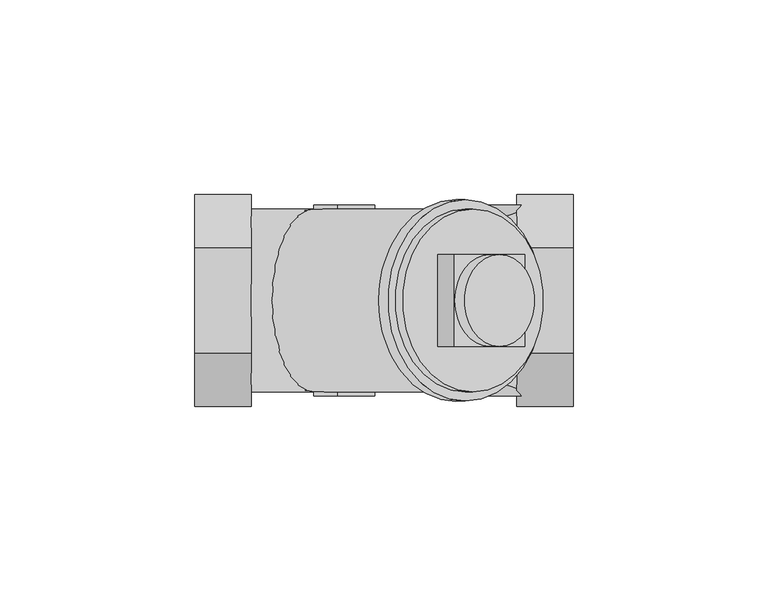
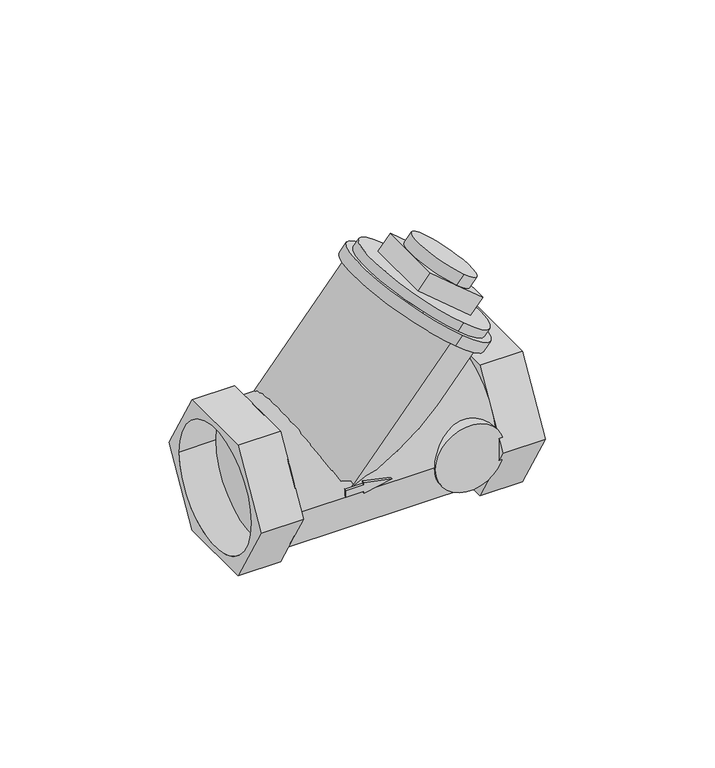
"""IFC4 building model written with IfcOpenShell, lengths in millimetres: valve geometry, 400_5-_KOMF_terugslagklep_PN_25_brons_DN15-50 : DN32 1¼''."""

from ifc_helpers import new_model, si_unit, point, frame, frame_2d, origin, origin_2d, place, context, project, spatial, polyline, circle_curve, ellipse_curve, trimmed, segment, composite_curve, outline, extrude, source, transform, mapped, element, save
from ifc_brep_helpers import plane_surface, cylinder_surface, revolved_surface, advanced_brep


def valve_3d6b45a5(model_context):
    return source(origin(), model_context, "Body", "SolidModel", [
        extrude(outline(composite_curve([segment(trimmed(circle_curve(origin_2d(), 23.5), [point((-23.5, 0.0))], [point((23.5, 0.0))], False, "CARTESIAN"), True, "CONTINUOUS"), segment(trimmed(circle_curve(origin_2d(), 23.5), [point((23.5, 0.0))], [point((-23.5, 0.0))], False, "CARTESIAN"), True, "CONTINUOUS")], self_intersect=False)), frame((-42.4929699, 0.0, 0.0), z_axis=(1.0, 0.0, 0.0), x_axis=(0.0, 1.0, 0.0)), (0.0, 0.0, 1.0), 67.9929669),
        extrude(outline(composite_curve([segment(trimmed(circle_curve(frame_2d((0.0, 15.749997)), 11.75), [point((0.0, 3.999997))], [point((0.0, 27.499997))], False, "CARTESIAN"), True, "CONTINUOUS"), segment(trimmed(circle_curve(frame_2d((0.0, 15.749997)), 11.75), [point((0.0, 27.499997))], [point((0.0, 3.999997))], False, "CARTESIAN"), True, "CONTINUOUS")], self_intersect=False)), frame((0.0, -24.5, 0.0), z_axis=(0.0, 1.0, 0.0), x_axis=(0.0, 0.0, 1.0)), (0.0, 0.0, 1.0), 49.0),
        advanced_brep(
        [(-42.4929699, -13.5677313, 23.5), (-42.4929699, -20.351597, 11.75), (-42.4929699, -27.1354627, 0.0), (-42.4929699, -20.351597, -11.75), (-42.4929699, -13.5677313, -23.5), (-42.4929699, 0.0, -23.5), (-42.4929699, 13.5677313, -23.5), (-42.4929699, 20.351597, -11.75), (-42.4929699, 27.1354627, 0.0), (-42.4929699, 20.351597, 11.75), (-42.4929699, 13.5677313, 23.5), (-42.4929699, 0.0, 23.5), (-42.4929699, 10.7831081, 13.4214081), (-42.4929699, -10.7831081, 13.4214081), (-57.000003, -13.5677313, 23.5), (-57.000003, 13.5677313, 23.5), (-57.000003, 27.1354627, 0.0), (-57.000003, 13.5677313, -23.5), (-57.000003, -13.5677313, -23.5), (-57.000003, -27.1354627, 0.0), (-57.000003, -21.2, 0.0), (-57.000003, 21.2, 0.0), (-44.500003, -21.2, 0.0), (-44.500003, 21.2, 0.0), (-26.4979586, -24.5, 3.1116273), (-26.4979586, -24.5, 0.829442), (-20.356228, -24.5, 0.829442), (-20.356228, -24.5, 0.0332575), (-10.8483948, -24.5, 1.9705347), (-20.356228, -24.5, 3.9078118), (-20.356228, -24.5, 3.1116273), (-26.4979586, 24.5, 3.1116273), (-20.356228, 24.5, 3.1116273), (-20.356228, 24.5, 3.9078118), (-10.8483948, 24.5, 1.9705347), (-20.356228, 24.5, 0.0332575), (-20.356228, 24.5, 0.829442), (-26.4979586, 24.5, 0.829442), (-26.4979586, -23.4147291, 3.1116273), (-26.4979586, -23.4939513, 0.829442), (-26.4979586, 23.4939513, 0.829442), (-26.4979586, 23.4147291, 3.1116273), (-25.8019741, -23.5, 0.829442), (-24.7192145, -23.4853577, 0.829442), (-20.356228, -23.1267606, 0.829442), (-20.356228, -23.4853577, 0.829442), (-20.356228, 23.4853577, 0.829442), (-20.356228, 23.1267606, 0.829442), (-24.7192145, 23.4853577, 0.829442), (-25.8019741, 23.5, 0.829442), (-20.356228, -23.0285734, 0.0332575), (-20.356228, -23.4999765, 0.0332575), (-20.356228, 23.4999765, 0.0332575), (-20.356228, 23.0285734, 0.0332575), (-10.8483948, -20.9116411, 1.9705347), (-10.8483948, -23.4172371, 1.9705347), (-10.8483948, 23.4172371, 1.9705347), (-10.8483948, 20.9116411, 1.9705347), (-18.7983522, -23.2241067, 3.5903854), (-20.356228, -23.3974569, 3.9078118), (-20.356228, 23.3974569, 3.9078118), (-18.7983522, 23.2241067, 3.5903854), (-20.356228, -23.3438316, 3.1116273), (-20.356228, 23.3438316, 3.1116273), (-23.8869933, -23.5, 3.1116273), (-23.8869933, 23.5, 3.1116273), (27.5457957, 0.0, 46.1270834), (27.5457957, 11.75, 46.1270834), (18.5447735, 11.75, 53.6798378), (9.5437513, 11.75, 61.2325922), (9.5437513, 0.0, 61.2325922), (9.5437513, -11.75, 61.2325922), (18.5447735, -11.75, 53.6798378), (27.5457957, -11.75, 46.1270834), (5.3175096, 11.75, 56.1959535), (5.3175096, -11.75, 56.1959535), (23.319554, -11.75, 41.0904447), (23.319554, 11.75, 41.0904447), (-26.4979586, 23.5, 0.0), (-26.4979586, -23.5, 0.0), (9.9394859, -23.5, 43.4244553), (9.9394859, 23.5, 43.4244553), (9.9394859, 25.85, 43.4244553), (9.9394859, -25.85, 43.4244553), (12.3768393, 25.85, 46.3291801), (12.3768393, -25.85, 46.3291801), (12.3768393, 23.5, 46.3291801), (12.3768393, -23.5, 46.3291801), (14.3185318, -23.5, 48.6431991), (14.3185318, 23.5, 48.6431991), (21.1121459, 11.75, 56.739513), (21.1121459, -11.75, 56.739513)],
        [
            (0, 1),
            (1, 2),
            (2, 3),
            (3, 4),
            (4, 5),
            (5, 6),
            (6, 7),
            (7, 8),
            (8, 9),
            (9, 10),
            (10, 11),
            (11, 0),
            (12, 13),
            (13, 12, ellipse_curve(frame((-42.4929699, 0.0, -19.0621121), z_axis=(-1.0, 0.0, 0.0), x_axis=(0.0, 0.0, 0.9999999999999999)), 36.5595099, 23.5)),
            (14, 15),
            (15, 16),
            (16, 17),
            (17, 18),
            (18, 19),
            (19, 14),
            (20, 21, circle_curve(frame((-57.000003, 0.0, 0.0), z_axis=(1.0, 0.0, 0.0), x_axis=(0.0, 1.0, 0.0)), 21.2)),
            (21, 20, circle_curve(frame((-57.000003, 0.0, 0.0), z_axis=(1.0, 0.0, 0.0), x_axis=(0.0, 1.0, 0.0)), 21.2)),
            (19, 2),
            (0, 14),
            (18, 4),
            (17, 6),
            (16, 8),
            (15, 10),
            (22, 23, circle_curve(frame((-44.500003, 0.0, 0.0), z_axis=(-1.0, 0.0, 0.0), x_axis=(0.0, 1.0, 0.0)), 21.2)),
            (23, 22, circle_curve(frame((-44.500003, 0.0, 0.0), z_axis=(-1.0, 0.0, 0.0), x_axis=(0.0, 1.0, 0.0)), 21.2)),
            (24, 25),
            (25, 26),
            (26, 27),
            (27, 28),
            (28, 29),
            (29, 30),
            (30, 24),
            (31, 32),
            (32, 33),
            (33, 34),
            (34, 35),
            (35, 36),
            (36, 37),
            (37, 31),
            (24, 38),
            (38, 39, ellipse_curve(frame((-26.4979586, 0.0, 0.0), z_axis=(1.0, 0.0, 0.0), x_axis=(0.0, 0.0, 0.9999999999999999)), 36.5595099, 23.5)),
            (39, 25),
            (37, 40),
            (40, 41, ellipse_curve(frame((-26.4979586, 0.0, 0.0), z_axis=(1.0, 0.0, 0.0), x_axis=(0.0, 0.0, 0.9999999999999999)), 36.5595099, 23.5)),
            (41, 31),
            (39, 42, ellipse_curve(frame((-25.8019741, 0.0, 0.829442), z_axis=(0.0, 0.0, 1.0), x_axis=(1.0, 0.0, 0.0)), 30.6770713, 23.5)),
            (42, 43, ellipse_curve(frame((-25.8019741, 0.0, 0.829442), z_axis=(0.0, 0.0, 1.0), x_axis=(1.0, 0.0, 0.0)), 30.6770713, 23.5)),
            (43, 44, ellipse_curve(frame((-25.8019741, 0.0, 0.829442), z_axis=(0.0, 0.0, 1.0), x_axis=(1.0, 0.0, 0.0)), 30.6770713, 23.5)),
            (44, 45),
            (45, 26),
            (36, 46),
            (46, 47),
            (47, 48, ellipse_curve(frame((-25.8019741, 0.0, 0.829442), z_axis=(0.0, 0.0, 1.0), x_axis=(1.0, 0.0, 0.0)), 30.6770713, 23.5)),
            (48, 49, ellipse_curve(frame((-25.8019741, 0.0, 0.829442), z_axis=(0.0, 0.0, 1.0), x_axis=(1.0, 0.0, 0.0)), 30.6770713, 23.5)),
            (49, 40, ellipse_curve(frame((-25.8019741, 0.0, 0.829442), z_axis=(0.0, 0.0, 1.0), x_axis=(1.0, 0.0, 0.0)), 30.6770713, 23.5)),
            (44, 50, ellipse_curve(frame((-20.356228, 0.0, 7.3194295), z_axis=(1.0, 0.0, 0.0), x_axis=(0.0, 0.0, 0.9999999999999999)), 36.5595099, 23.5)),
            (50, 51),
            (51, 27),
            (35, 52),
            (52, 53),
            (53, 47, ellipse_curve(frame((-20.356228, 0.0, 7.3194295), z_axis=(1.0, 0.0, 0.0), x_axis=(0.0, 0.0, 0.9999999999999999)), 36.5595099, 23.5)),
            (50, 54, ellipse_curve(frame((-27.7309133, 0.0, -1.4693782), z_axis=(-0.19965359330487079, 0.0, 0.9798665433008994), x_axis=(0.9798665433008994, 0.0, 0.1996535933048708)), 37.7639581, 23.5)),
            (54, 55),
            (55, 28),
            (34, 56),
            (56, 57),
            (57, 53, ellipse_curve(frame((-27.7309133, 0.0, -1.4693782), z_axis=(-0.19965359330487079, 0.0, 0.9798665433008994), x_axis=(0.9798665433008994, 0.0, 0.1996535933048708)), 37.7639581, 23.5)),
            (54, 58, ellipse_curve(frame((-22.8009392, 0.0, 4.4059362), z_axis=(-0.19965359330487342, 0.0, -0.9798665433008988), x_axis=(0.9798665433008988, 0.0, -0.1996535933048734)), 26.736259, 23.5)),
            (58, 59, ellipse_curve(frame((-22.8009392, 0.0, 4.4059362), z_axis=(-0.19965359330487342, 0.0, -0.9798665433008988), x_axis=(0.9798665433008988, 0.0, -0.1996535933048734)), 26.736259, 23.5)),
            (59, 29),
            (33, 60),
            (60, 61, ellipse_curve(frame((-22.8009392, 0.0, 4.4059362), z_axis=(-0.19965359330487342, 0.0, -0.9798665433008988), x_axis=(0.9798665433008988, 0.0, -0.1996535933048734)), 26.736259, 23.5)),
            (61, 57, ellipse_curve(frame((-22.8009392, 0.0, 4.4059362), z_axis=(-0.19965359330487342, 0.0, -0.9798665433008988), x_axis=(0.9798665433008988, 0.0, -0.1996535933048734)), 26.736259, 23.5)),
            (59, 62, ellipse_curve(frame((-20.356228, 0.0, 7.3194295), z_axis=(1.0, 0.0, 0.0), x_axis=(0.0, 0.0, 0.9999999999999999)), 36.5595099, 23.5)),
            (62, 30),
            (32, 63),
            (63, 60, ellipse_curve(frame((-20.356228, 0.0, 7.3194295), z_axis=(1.0, 0.0, 0.0), x_axis=(0.0, 0.0, 0.9999999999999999)), 36.5595099, 23.5)),
            (62, 64, ellipse_curve(frame((-23.8869933, 0.0, 3.1116273), z_axis=(0.0, 0.0, -1.0), x_axis=(1.0, 0.0, 0.0)), 30.6770713, 23.5)),
            (64, 38, ellipse_curve(frame((-23.8869933, 0.0, 3.1116273), z_axis=(0.0, 0.0, -1.0), x_axis=(1.0, 0.0, 0.0)), 30.6770713, 23.5)),
            (41, 65, ellipse_curve(frame((-23.8869933, 0.0, 3.1116273), z_axis=(0.0, 0.0, -1.0), x_axis=(1.0, 0.0, 0.0)), 30.6770713, 23.5)),
            (65, 63, ellipse_curve(frame((-23.8869933, 0.0, 3.1116273), z_axis=(0.0, 0.0, -1.0), x_axis=(1.0, 0.0, 0.0)), 30.6770713, 23.5)),
            (66, 67),
            (67, 68),
            (68, 66, circle_curve(frame((18.5447735, 0.0, 53.6798378), z_axis=(-0.6427876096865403, 0.0, -0.7660444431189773), x_axis=(0.0, -1.0, 0.0)), 11.75)),
            (69, 70),
            (70, 68, circle_curve(frame((18.5447735, 0.0, 53.6798378), z_axis=(-0.6427876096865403, 0.0, -0.7660444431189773), x_axis=(0.0, -1.0, 0.0)), 11.75)),
            (68, 69),
            (70, 71),
            (71, 72),
            (72, 70, circle_curve(frame((18.5447735, 0.0, 53.6798378), z_axis=(-0.6427876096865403, 0.0, -0.7660444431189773), x_axis=(0.0, -1.0, 0.0)), 11.75)),
            (72, 73),
            (73, 66),
            (66, 72, circle_curve(frame((18.5447735, 0.0, 53.6798378), z_axis=(-0.6427876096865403, 0.0, -0.7660444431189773), x_axis=(0.0, -1.0, 0.0)), 11.75)),
            (69, 74),
            (74, 75),
            (75, 71),
            (75, 76),
            (76, 73),
            (76, 77),
            (77, 67),
            (77, 74),
            (78, 79, circle_curve(frame((-26.4979586, 0.0, 0.0), z_axis=(-0.6427876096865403, 0.0, -0.7660444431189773), x_axis=(0.0, -1.0, 0.0)), 23.5)),
            (79, 13, circle_curve(frame((-26.4979586, 0.0, 0.0), z_axis=(-0.6427876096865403, 0.0, -0.7660444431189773), x_axis=(0.0, -1.0, 0.0)), 23.5)),
            (12, 78, circle_curve(frame((-26.4979586, 0.0, 0.0), z_axis=(-0.6427876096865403, 0.0, -0.7660444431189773), x_axis=(0.0, -1.0, 0.0)), 23.5)),
            (79, 42),
            (64, 80),
            (80, 81, circle_curve(frame((9.9394859, 0.0, 43.4244553), z_axis=(-0.6427876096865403, 0.0, -0.7660444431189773), x_axis=(0.0, -1.0, 0.0)), 23.5)),
            (81, 65),
            (49, 78),
            (81, 80, circle_curve(frame((9.9394859, 0.0, 43.4244553), z_axis=(-0.6427876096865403, 0.0, -0.7660444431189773), x_axis=(0.0, -1.0, 0.0)), 23.5)),
            (82, 83, circle_curve(frame((9.9394859, 0.0, 43.4244553), z_axis=(-0.64278760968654, 0.0, -0.7660444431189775), x_axis=(0.0, -1.0, 0.0)), 25.85)),
            (83, 82, circle_curve(frame((9.9394859, 0.0, 43.4244553), z_axis=(-0.64278760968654, 0.0, -0.7660444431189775), x_axis=(0.0, -1.0, 0.0)), 25.85)),
            (84, 85, circle_curve(frame((12.3768393, 0.0, 46.3291801), z_axis=(0.64278760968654, 0.0, 0.7660444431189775), x_axis=(0.0, -1.0, 0.0)), 25.85)),
            (85, 84, circle_curve(frame((12.3768393, 0.0, 46.3291801), z_axis=(0.64278760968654, 0.0, 0.7660444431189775), x_axis=(0.0, -1.0, 0.0)), 25.85)),
            (86, 87, circle_curve(frame((12.3768393, 0.0, 46.3291801), z_axis=(-0.64278760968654, 0.0, -0.7660444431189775), x_axis=(0.0, -1.0, 0.0)), 23.5)),
            (87, 86, circle_curve(frame((12.3768393, 0.0, 46.3291801), z_axis=(-0.64278760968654, 0.0, -0.7660444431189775), x_axis=(0.0, -1.0, 0.0)), 23.5)),
            (88, 89, circle_curve(frame((14.3185318, 0.0, 48.6431991), z_axis=(0.64278760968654, 0.0, 0.7660444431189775), x_axis=(0.0, -1.0, 0.0)), 23.5)),
            (89, 88, circle_curve(frame((14.3185318, 0.0, 48.6431991), z_axis=(0.64278760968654, 0.0, 0.7660444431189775), x_axis=(0.0, -1.0, 0.0)), 23.5)),
            (88, 87),
            (86, 89),
            (90, 91, circle_curve(frame((21.1121459, 0.0, 56.739513), z_axis=(0.6427876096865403, 0.0, 0.7660444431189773), x_axis=(0.0, -1.0, 0.0)), 11.75)),
            (91, 90, circle_curve(frame((21.1121459, 0.0, 56.739513), z_axis=(0.6427876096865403, 0.0, 0.7660444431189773), x_axis=(0.0, -1.0, 0.0)), 11.75)),
            (90, 68),
            (72, 91),
            (83, 85),
            (84, 82),
            (23, 21),
            (20, 22),
        ],
        [
            plane_surface(frame((-42.4929699, -27.1354627, 0.0), z_axis=(1.0, 0.0, 0.0), x_axis=(0.0, -0.49999999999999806, -0.8660254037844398))),
            plane_surface(frame((-57.000003, -27.1354627, 0.0), z_axis=(-1.0, 0.0, 0.0), x_axis=(0.0, 0.49999999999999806, 0.8660254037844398))),
            plane_surface(frame((-42.4929699, -13.5677313, 23.5), z_axis=(0.0, -0.8660254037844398, 0.49999999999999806), x_axis=(-1.0, 0.0, 0.0))),
            plane_surface(frame((-42.4929699, -27.1354627, 0.0), z_axis=(0.0, -0.8660254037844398, -0.4999999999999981), x_axis=(-1.0, 0.0, 0.0))),
            plane_surface(frame((-42.4929699, -13.5677313, -23.5), z_axis=(0.0, 0.0, -1.0), x_axis=(-1.0, 0.0, 0.0))),
            plane_surface(frame((-42.4929699, 13.5677313, -23.5), z_axis=(0.0, 0.8660254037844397, -0.49999999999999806), x_axis=(-1.0, 0.0, 0.0))),
            plane_surface(frame((-42.4929699, 27.1354627, 0.0), z_axis=(0.0, 0.8660254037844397, 0.49999999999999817), x_axis=(-1.0, 0.0, 0.0))),
            plane_surface(frame((-42.4929699, 13.5677313, 23.5), z_axis=(0.0, 0.0, 1.0), x_axis=(-1.0, 0.0, 0.0))),
            plane_surface(frame((-44.500003, 21.2, 0.0), z_axis=(-1.0, 0.0, 0.0), x_axis=(0.0, 0.0, 1.0))),
            plane_surface(frame((-26.4979586, -24.5, 0.829442), z_axis=(0.0, -1.0, 0.0), x_axis=(0.0, 0.0, -1.0))),
            plane_surface(frame((-26.4979586, 24.5, 0.829442), z_axis=(0.0, 1.0, 0.0), x_axis=(0.0, 0.0, 1.0))),
            plane_surface(frame((-26.4979586, -24.5, 3.1116273), z_axis=(-1.0, 0.0, 0.0), x_axis=(0.0, 1.0, 0.0))),
            plane_surface(frame((-26.4979586, -24.5, 0.829442), z_axis=(0.0, 0.0, -1.0), x_axis=(0.0, 1.0, 0.0))),
            plane_surface(frame((-20.356228, -24.5, 0.829442), z_axis=(-1.0, 0.0, 0.0), x_axis=(0.0, 1.0, 0.0))),
            plane_surface(frame((-20.356228, -24.5, 0.0332575), z_axis=(0.19965359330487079, 0.0, -0.9798665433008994), x_axis=(0.0, 1.0, 0.0))),
            plane_surface(frame((-10.8483948, -24.5, 1.9705347), z_axis=(0.19965359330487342, 0.0, 0.9798665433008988), x_axis=(0.0, 1.0, 0.0))),
            plane_surface(frame((-20.356228, -24.5, 3.9078118), z_axis=(-1.0, 0.0, 0.0), x_axis=(0.0, 1.0, 0.0))),
            plane_surface(frame((-20.356228, -24.5, 3.1116273), z_axis=(0.0, 0.0, 1.0), x_axis=(0.0, 1.0, 0.0))),
            plane_surface(frame((9.5437513, -11.75, 61.2325922), z_axis=(0.6427876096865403, 0.0, 0.7660444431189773), x_axis=(0.0, -1.0, 0.0))),
            plane_surface(frame((9.5437513, 11.75, 61.2325922), z_axis=(-0.7660444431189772, 0.0, 0.6427876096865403), x_axis=(-0.6427876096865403, 0.0, -0.7660444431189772))),
            plane_surface(frame((9.5437513, -11.75, 61.2325922), z_axis=(0.0, -1.0, 0.0), x_axis=(-0.6427876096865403, 0.0, -0.7660444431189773))),
            plane_surface(frame((27.5457957, -11.75, 46.1270834), z_axis=(0.7660444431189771, 0.0, -0.6427876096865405), x_axis=(-0.6427876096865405, 0.0, -0.7660444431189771))),
            plane_surface(frame((27.5457957, 11.75, 46.1270834), z_axis=(0.0, 1.0, 0.0), x_axis=(-0.6427876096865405, 0.0, -0.7660444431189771))),
            plane_surface(frame((-26.4979586, -23.5, 0.0), z_axis=(-0.6427876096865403, 0.0, -0.7660444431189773), x_axis=(-0.7660444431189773, 0.0, 0.6427876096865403))),
            cylinder_surface(frame((-26.4979586, 0.0, 0.0), z_axis=(0.6427876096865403, 0.0, 0.7660444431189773), x_axis=(0.0, -1.0, 0.0)), 23.5),
            plane_surface(frame((9.9394859, -25.85, 43.4244553), z_axis=(-0.6427876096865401, 0.0, -0.7660444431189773), x_axis=(-0.7660444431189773, 0.0, 0.6427876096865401))),
            plane_surface(frame((12.3768393, -25.85, 46.3291801), z_axis=(0.6427876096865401, 0.0, 0.7660444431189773), x_axis=(0.7660444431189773, 0.0, -0.6427876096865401))),
            plane_surface(frame((14.3185318, -23.5, 48.6431991), z_axis=(0.6427876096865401, 0.0, 0.7660444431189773), x_axis=(0.7660444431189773, 0.0, -0.6427876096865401))),
            cylinder_surface(frame((12.3768393, 0.0, 46.3291801), z_axis=(0.64278760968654, 0.0, 0.7660444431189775), x_axis=(0.0, -1.0, 0.0)), 23.5),
            plane_surface(frame((21.1121459, -11.75, 56.739513), z_axis=(0.6427876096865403, 0.0, 0.7660444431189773), x_axis=(0.7660444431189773, 0.0, -0.6427876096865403))),
            cylinder_surface(frame((18.5447735, 0.0, 53.6798378), z_axis=(0.6427876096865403, 0.0, 0.7660444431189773), x_axis=(0.0, -1.0, 0.0)), 11.75),
            cylinder_surface(frame((9.9394859, 0.0, 43.4244553), z_axis=(0.64278760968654, 0.0, 0.7660444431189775), x_axis=(0.0, -1.0, 0.0)), 25.85),
            revolved_surface(polyline([(-44.500003, 21.2, 0.0), (-57.000003, 21.2, 0.0)]), (-57.000003, 0.0, 0.0), (1.0, 0.0, 0.0)),
        ],
        [
            (0, [[1, 2, 3, 4, 5, 6, 7, 8, 9, 10, 11, 12], [13, 14]]),
            (1, [[15, 16, 17, 18, 19, 20], [21, 22]]),
            (2, [[-20, 23, -2, -1, 24]]),
            (3, [[-19, 25, -4, -3, -23]]),
            (4, [[-18, 26, -6, -5, -25]]),
            (5, [[-17, 27, -8, -7, -26]]),
            (6, [[-16, 28, -10, -9, -27]]),
            (7, [[-15, -24, -12, -11, -28]]),
            (8, [[29, 30]]),
            (9, [[31, 32, 33, 34, 35, 36, 37]]),
            (10, [[38, 39, 40, 41, 42, 43, 44]]),
            (11, [[-31, 45, 46, 47]]),
            (11, [[-44, 48, 49, 50]]),
            (12, [[-32, -47, 51, 52, 53, 54, 55]]),
            (12, [[-43, 56, 57, 58, 59, 60, -48]]),
            (13, [[-33, -55, -54, 61, 62, 63]]),
            (13, [[-42, 64, 65, 66, -57, -56]]),
            (14, [[-34, -63, -62, 67, 68, 69]]),
            (14, [[-41, 70, 71, 72, -65, -64]]),
            (15, [[-35, -69, -68, 73, 74, 75]]),
            (15, [[-40, 76, 77, 78, -71, -70]]),
            (16, [[-36, -75, 79, 80]]),
            (16, [[-39, 81, 82, -76]]),
            (17, [[-37, -80, 83, 84, -45]]),
            (17, [[-38, -50, 85, 86, -81]]),
            (18, [[87, 88, 89]]),
            (18, [[90, 91, 92]]),
            (18, [[93, 94, 95]]),
            (18, [[96, 97, 98]]),
            (19, [[99, 100, 101, -93, -90]]),
            (20, [[-101, 102, 103, -96, -94]]),
            (21, [[-103, 104, 105, -87, -97]]),
            (22, [[-99, -92, -88, -105, 106]]),
            (23, [[107, 108, -13, 109]]),
            (24, [[-108, 110, -51, -46, -84, 111, 112, 113, -85, -49, -60, 114, -109, -14]]),
            (24, [[-107, -114, -59, -58, -66, -72, -78, -77, -82, -86, -113, 115, -111, -83, -79, -74, -73, -67, -61, -53, -52, -110]]),
            (25, [[116, 117], [-112, -115]]),
            (26, [[118, 119], [120, 121]]),
            (27, [[122, 123], [-100, -106, -104, -102]]),
            (28, [[-122, 124, -120, 125]]),
            (28, [[-123, -125, -121, -124]]),
            (29, [[126, 127]]),
            (30, [[-126, 128, -91, -95, 129]]),
            (30, [[-127, -129, -98, -89, -128]]),
            (31, [[-117, 130, -118, 131]]),
            (31, [[-116, -131, -119, -130]]),
            (32, [[-30, 132, -21, 133]]),
            (32, [[-29, -133, -22, -132]]),
        ],
    ),
        advanced_brep(
        [(39.999997, -13.5677313, 23.5), (39.999997, -27.1354627, 0.0), (39.999997, -13.5677313, -23.5), (39.999997, 13.5677313, -23.5), (39.999997, 27.1354627, 0.0), (39.999997, 13.5677313, 23.5), (39.999997, 21.2, 0.0), (39.999997, -21.2, 0.0), (25.499997, -13.5677313, 23.5), (25.499997, 0.0, 23.5), (25.499997, 13.5677313, 23.5), (25.499997, 20.351597, 11.75), (25.499997, 27.1354627, 0.0), (25.499997, 20.351597, -11.75), (25.499997, 13.5677313, -23.5), (25.499997, 0.0, -23.5), (25.499997, -13.5677313, -23.5), (25.499997, -20.351597, -11.75), (25.499997, -27.1354627, 0.0), (25.499997, -20.351597, 11.75), (27.499997, -21.2, 0.0), (27.499997, 21.2, 0.0)],
        [
            (0, 1),
            (1, 2),
            (2, 3),
            (3, 4),
            (4, 5),
            (5, 0),
            (6, 7, circle_curve(frame((39.999997, 0.0, 0.0), z_axis=(-1.0, 0.0, 0.0), x_axis=(0.0, 1.0, 0.0)), 21.2)),
            (7, 6, circle_curve(frame((39.999997, 0.0, 0.0), z_axis=(-1.0, 0.0, 0.0), x_axis=(0.0, 1.0, 0.0)), 21.2)),
            (8, 9),
            (9, 10),
            (10, 11),
            (11, 12),
            (12, 13),
            (13, 14),
            (14, 15),
            (15, 16),
            (16, 17),
            (17, 18),
            (18, 19),
            (19, 8),
            (0, 8),
            (18, 1),
            (16, 2),
            (14, 3),
            (12, 4),
            (10, 5),
            (20, 21, circle_curve(frame((27.499997, 0.0, 0.0), z_axis=(1.0, 0.0, 0.0), x_axis=(0.0, 1.0, 0.0)), 21.2)),
            (21, 20, circle_curve(frame((27.499997, 0.0, 0.0), z_axis=(1.0, 0.0, 0.0), x_axis=(0.0, 1.0, 0.0)), 21.2)),
            (20, 7),
            (6, 21),
        ],
        [
            plane_surface(frame((39.999997, -27.1354627, 0.0), z_axis=(1.0, 0.0, 0.0), x_axis=(0.0, -0.49999999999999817, -0.8660254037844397))),
            plane_surface(frame((25.499997, -27.1354627, 0.0), z_axis=(-1.0, 0.0, 0.0), x_axis=(0.0, 0.49999999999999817, 0.8660254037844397))),
            plane_surface(frame((39.999997, -13.5677313, 23.5), z_axis=(0.0, -0.8660254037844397, 0.49999999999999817), x_axis=(-1.0, 0.0, 0.0))),
            plane_surface(frame((39.999997, -27.1354627, 0.0), z_axis=(0.0, -0.8660254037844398, -0.4999999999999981), x_axis=(-1.0, 0.0, 0.0))),
            plane_surface(frame((39.999997, -13.5677313, -23.5), z_axis=(0.0, 0.0, -1.0), x_axis=(-1.0, 0.0, 0.0))),
            plane_surface(frame((39.999997, 13.5677313, -23.5), z_axis=(0.0, 0.8660254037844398, -0.49999999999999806), x_axis=(-1.0, 0.0, 0.0))),
            plane_surface(frame((39.999997, 27.1354627, 0.0), z_axis=(0.0, 0.8660254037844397, 0.4999999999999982), x_axis=(-1.0, 0.0, 0.0))),
            plane_surface(frame((39.999997, 13.5677313, 23.5), z_axis=(0.0, 0.0, 1.0), x_axis=(-1.0, 0.0, 0.0))),
            plane_surface(frame((27.499997, 21.2, 0.0), z_axis=(1.0, 0.0, 0.0), x_axis=(0.0, 0.0, -1.0))),
            revolved_surface(polyline([(39.999997, 21.2, 0.0), (27.499997, 21.2, 0.0)]), (27.499997, 0.0, 0.0), (1.0, 0.0, 0.0)),
        ],
        [
            (0, [[1, 2, 3, 4, 5, 6], [7, 8]]),
            (1, [[9, 10, 11, 12, 13, 14, 15, 16, 17, 18, 19, 20]]),
            (2, [[-1, 21, -20, -19, 22]]),
            (3, [[-2, -22, -18, -17, 23]]),
            (4, [[-3, -23, -16, -15, 24]]),
            (5, [[-4, -24, -14, -13, 25]]),
            (6, [[-5, -25, -12, -11, 26]]),
            (7, [[-6, -26, -10, -9, -21]]),
            (8, [[27, 28]]),
            (9, [[-27, 29, -7, 30]]),
            (9, [[-28, -30, -8, -29]]),
        ],
    ),
    ])


if __name__ == "__main__":
    model = new_model("IFC4")
    model_context = context("Model", 3, world=origin())
    ifc_project = project(units=[si_unit("LENGTHUNIT", "METRE", prefix="MILLI")], contexts=[model_context])
    site = spatial("IfcSite", under=ifc_project)
    building = spatial("IfcBuilding", under=site)
    placement = place(None, origin())
    valve_shape = valve_3d6b45a5(model_context)
    element("IfcValve", 1, ObjectType="400_5-_KOMF_terugslagklep_PN_25_brons_DN15-50 : DN32 1¼''", at=placement, inside=building, context=model_context, shape_type="MappedRepresentation", body=[
        mapped(valve_shape, transform((0.0, 0.0, 0.0), x_axis=(1.0, 0.0, 0.0), y_axis=(0.0, 1.0, 0.0), z_axis=(0.0, 0.0, 1.0))),
    ])
    save(model, "model.ifc")
